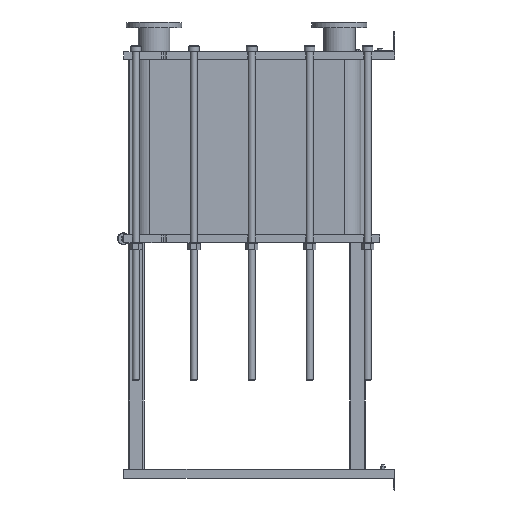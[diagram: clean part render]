
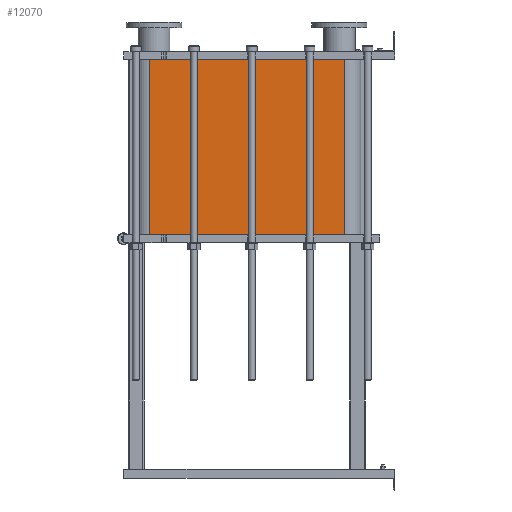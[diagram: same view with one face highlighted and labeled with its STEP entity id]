
A CAD part, left-side view. The second image highlights one B-rep face of the part: STEP entity #12070.
In plain terms, the highlighted planar face has unit normal (-1, 0, 0).
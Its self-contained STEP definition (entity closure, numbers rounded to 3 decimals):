
#1064=LINE('',#21140,#2164);
#1065=LINE('',#21144,#2165);
#1066=LINE('',#21146,#2166);
#1067=LINE('',#21147,#2167);
#2164=VECTOR('',#15790,10.);
#2165=VECTOR('',#15795,10.);
#2166=VECTOR('',#15796,10.);
#2167=VECTOR('',#15797,10.);
#3304=FACE_OUTER_BOUND('',#4091,.T.);
#4091=EDGE_LOOP('',(#9793,#9794,#9795,#9796));
#5677=VERTEX_POINT('',#21137);
#5678=VERTEX_POINT('',#21139);
#5679=VERTEX_POINT('',#21143);
#5680=VERTEX_POINT('',#21145);
#7118=EDGE_CURVE('',#5678,#5677,#1064,.T.);
#7120=EDGE_CURVE('',#5677,#5679,#1065,.T.);
#7121=EDGE_CURVE('',#5680,#5679,#1066,.T.);
#7122=EDGE_CURVE('',#5680,#5678,#1067,.T.);
#9793=ORIENTED_EDGE('',*,*,#7120,.T.);
#9794=ORIENTED_EDGE('',*,*,#7121,.F.);
#9795=ORIENTED_EDGE('',*,*,#7122,.T.);
#9796=ORIENTED_EDGE('',*,*,#7118,.T.);
#11441=PLANE('',#13191);
#12070=ADVANCED_FACE('',(#3304),#11441,.T.);
#13191=AXIS2_PLACEMENT_3D('',#21142,#15793,#15794);
#15790=DIRECTION('',(0.,0.,-1.));
#15793=DIRECTION('center_axis',(-1.,0.,0.));
#15794=DIRECTION('ref_axis',(0.,1.,0.));
#15795=DIRECTION('',(0.,-1.,0.));
#15796=DIRECTION('',(0.,0.,-1.));
#15797=DIRECTION('',(0.,1.,0.));
#21137=CARTESIAN_POINT('',(-248.152,1243.818,-890.1));
#21139=CARTESIAN_POINT('',(-248.152,1243.818,0.));
#21140=CARTESIAN_POINT('',(-248.152,1243.818,0.));
#21142=CARTESIAN_POINT('Origin',(-248.152,251.818,0.));
#21143=CARTESIAN_POINT('',(-248.152,251.818,-890.1));
#21144=CARTESIAN_POINT('',(-248.152,499.818,-890.1));
#21145=CARTESIAN_POINT('',(-248.152,251.818,0.));
#21146=CARTESIAN_POINT('',(-248.152,251.818,0.));
#21147=CARTESIAN_POINT('',(-248.152,251.818,0.));
